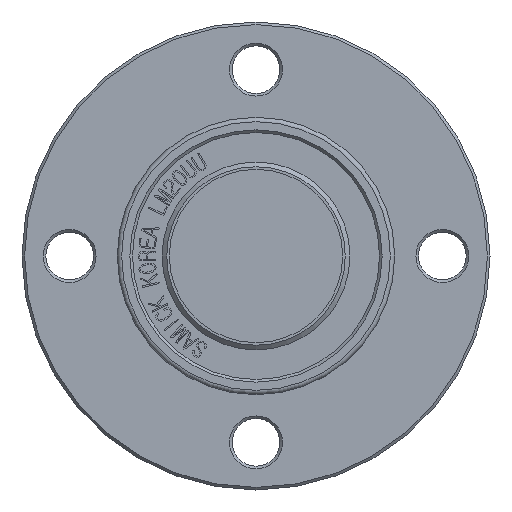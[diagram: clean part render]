
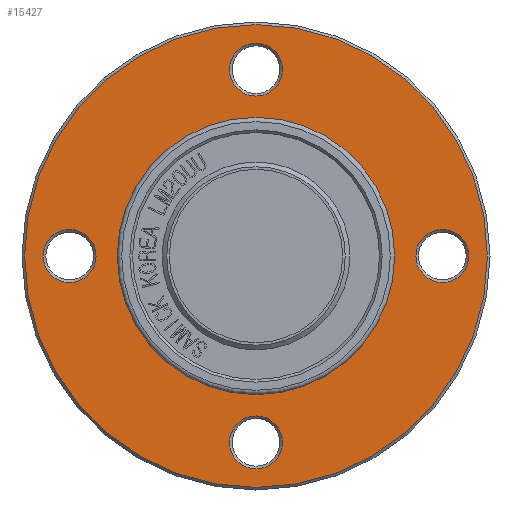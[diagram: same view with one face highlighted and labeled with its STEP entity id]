
A CAD part, front view. The second image highlights one B-rep face of the part: STEP entity #15427.
In plain terms, the highlighted planar face has unit normal (0, -1, 0).
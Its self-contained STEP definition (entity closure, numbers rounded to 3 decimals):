
#2211=FACE_BOUND('',#3365,.T.);
#2212=FACE_BOUND('',#3366,.T.);
#2213=FACE_BOUND('',#3367,.T.);
#2214=FACE_BOUND('',#3368,.T.);
#2215=FACE_BOUND('',#3369,.T.);
#2271=PLANE('',#16324);
#2508=FACE_OUTER_BOUND('',#3364,.T.);
#3364=EDGE_LOOP('',(#10665,#10666));
#3365=EDGE_LOOP('',(#10667));
#3366=EDGE_LOOP('',(#10668));
#3367=EDGE_LOOP('',(#10669,#10670));
#3368=EDGE_LOOP('',(#10671));
#3369=EDGE_LOOP('',(#10672));
#6550=CIRCLE('',#16322,3.05);
#6552=CIRCLE('',#16325,26.7);
#6553=CIRCLE('',#16326,26.7);
#6554=CIRCLE('',#16327,3.05);
#6555=CIRCLE('',#16328,3.05);
#6556=CIRCLE('',#16329,16.);
#6557=CIRCLE('',#16330,16.);
#6558=CIRCLE('',#16331,3.05);
#6632=VERTEX_POINT('',#18511);
#6634=VERTEX_POINT('',#18517);
#6635=VERTEX_POINT('',#18518);
#6636=VERTEX_POINT('',#18521);
#6637=VERTEX_POINT('',#18523);
#6638=VERTEX_POINT('',#18525);
#6639=VERTEX_POINT('',#18526);
#6640=VERTEX_POINT('',#18529);
#8244=EDGE_CURVE('',#6632,#6632,#6550,.T.);
#8247=EDGE_CURVE('',#6634,#6635,#6552,.T.);
#8248=EDGE_CURVE('',#6635,#6634,#6553,.T.);
#8249=EDGE_CURVE('',#6636,#6636,#6554,.T.);
#8250=EDGE_CURVE('',#6637,#6637,#6555,.T.);
#8251=EDGE_CURVE('',#6638,#6639,#6556,.T.);
#8252=EDGE_CURVE('',#6639,#6638,#6557,.T.);
#8253=EDGE_CURVE('',#6640,#6640,#6558,.T.);
#10665=ORIENTED_EDGE('',*,*,#8247,.T.);
#10666=ORIENTED_EDGE('',*,*,#8248,.T.);
#10667=ORIENTED_EDGE('',*,*,#8249,.F.);
#10668=ORIENTED_EDGE('',*,*,#8250,.F.);
#10669=ORIENTED_EDGE('',*,*,#8251,.F.);
#10670=ORIENTED_EDGE('',*,*,#8252,.F.);
#10671=ORIENTED_EDGE('',*,*,#8253,.F.);
#10672=ORIENTED_EDGE('',*,*,#8244,.F.);
#15427=ADVANCED_FACE('',(#2508,#2211,#2212,#2213,#2214,#2215),#2271,.T.);
#16322=AXIS2_PLACEMENT_3D('',#18512,#16707,#16708);
#16324=AXIS2_PLACEMENT_3D('',#18516,#16712,#16713);
#16325=AXIS2_PLACEMENT_3D('',#18519,#16714,#16715);
#16326=AXIS2_PLACEMENT_3D('',#18520,#16716,#16717);
#16327=AXIS2_PLACEMENT_3D('',#18522,#16718,#16719);
#16328=AXIS2_PLACEMENT_3D('',#18524,#16720,#16721);
#16329=AXIS2_PLACEMENT_3D('',#18527,#16722,#16723);
#16330=AXIS2_PLACEMENT_3D('',#18528,#16724,#16725);
#16331=AXIS2_PLACEMENT_3D('',#18530,#16726,#16727);
#16707=DIRECTION('center_axis',(0.,-1.,0.));
#16708=DIRECTION('ref_axis',(1.,0.,0.));
#16712=DIRECTION('center_axis',(0.,-1.,0.));
#16713=DIRECTION('ref_axis',(0.,0.,-1.));
#16714=DIRECTION('center_axis',(0.,-1.,0.));
#16715=DIRECTION('ref_axis',(1.,0.,0.));
#16716=DIRECTION('center_axis',(0.,-1.,0.));
#16717=DIRECTION('ref_axis',(1.,0.,0.));
#16718=DIRECTION('center_axis',(0.,-1.,0.));
#16719=DIRECTION('ref_axis',(0.,0.,-1.));
#16720=DIRECTION('center_axis',(0.,-1.,0.));
#16721=DIRECTION('ref_axis',(-1.,0.,0.));
#16722=DIRECTION('center_axis',(0.,-1.,0.));
#16723=DIRECTION('ref_axis',(1.,0.,0.));
#16724=DIRECTION('center_axis',(0.,-1.,0.));
#16725=DIRECTION('ref_axis',(1.,0.,0.));
#16726=DIRECTION('center_axis',(0.,-1.,0.));
#16727=DIRECTION('ref_axis',(0.,0.,
1.));
#18511=CARTESIAN_POINT('',(18.45,24.,0.));
#18512=CARTESIAN_POINT('Origin',(21.5,24.,0.));
#18516=CARTESIAN_POINT('Origin',(16.,24.,0.));
#18517=CARTESIAN_POINT('',(26.7,24.,0.));
#18518=CARTESIAN_POINT('',(-26.7,24.,0.));
#18519=CARTESIAN_POINT('Origin',(0.,24.,0.));
#18520=CARTESIAN_POINT('Origin',(0.,24.,0.));
#18521=CARTESIAN_POINT('',(0.,24.,-18.45));
#18522=CARTESIAN_POINT('Origin',(0.,24.,-21.5));
#18523=CARTESIAN_POINT('',(-18.45,24.,0.));
#18524=CARTESIAN_POINT('Origin',(-21.5,24.,0.));
#18525=CARTESIAN_POINT('',(16.,24.,0.));
#18526=CARTESIAN_POINT('',(-16.,24.,0.));
#18527=CARTESIAN_POINT('Origin',(0.,24.,0.));
#18528=CARTESIAN_POINT('Origin',(0.,24.,0.));
#18529=CARTESIAN_POINT('',(0.,24.,18.45));
#18530=CARTESIAN_POINT('Origin',(0.,24.,21.5));
